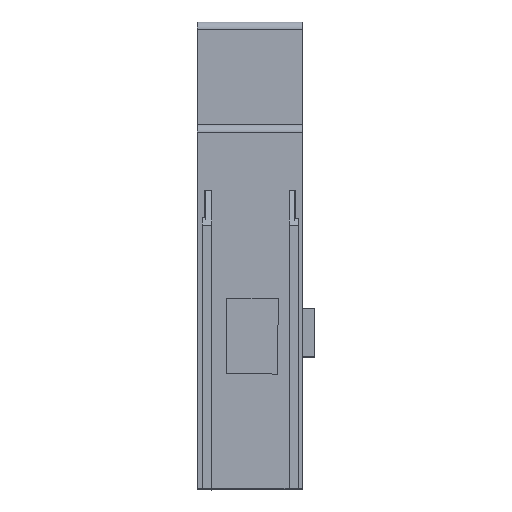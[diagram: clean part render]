
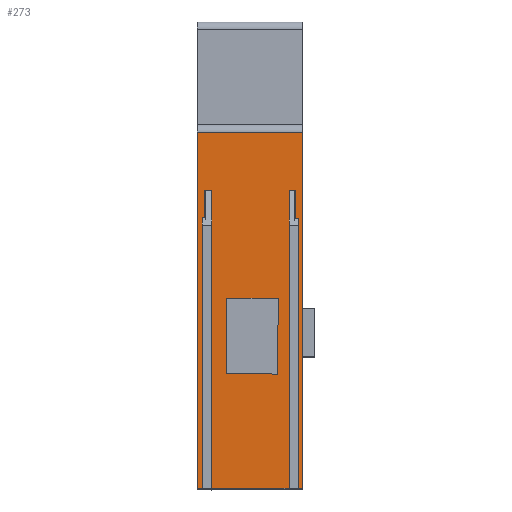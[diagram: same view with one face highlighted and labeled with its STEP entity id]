
A CAD part, front view. The second image highlights one B-rep face of the part: STEP entity #273.
In plain terms, the highlighted planar face has unit normal (0, -1, 0.003) as drawn and (0, 1, 0) by its records, which use the part's own axes.
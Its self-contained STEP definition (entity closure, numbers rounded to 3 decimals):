
#18 = VECTOR ( 'NONE', #1294, 1000. ) ;
#36 = VERTEX_POINT ( 'NONE', #3034 ) ;
#173 = VECTOR ( 'NONE', #3929, 1000. ) ;
#178 = EDGE_CURVE ( 'NONE', #1250, #380, #3559, .T. ) ;
#203 = ORIENTED_EDGE ( 'NONE', *, *, #3214, .F. ) ;
#233 = VECTOR ( 'NONE', #3371, 1000. ) ;
#267 = ORIENTED_EDGE ( 'NONE', *, *, #1054, .T. ) ;
#273 = ADVANCED_FACE ( 'NONE', ( #2558, #2505 ), #936, .F. ) ;
#320 = DIRECTION ( 'NONE',  ( 0., 0., -1. ) ) ;
#380 = VERTEX_POINT ( 'NONE', #1339 ) ;
#434 = LINE ( 'NONE', #596, #3375 ) ;
#495 = CARTESIAN_POINT ( 'NONE',  ( -8.85, 32.641, 40.5 ) ) ;
#545 = EDGE_CURVE ( 'NONE', #1443, #4043, #1128, .T. ) ;
#550 = VECTOR ( 'NONE', #320, 1000. ) ;
#555 = LINE ( 'NONE', #2863, #1116 ) ;
#595 = ORIENTED_EDGE ( 'NONE', *, *, #639, .F. ) ;
#596 = CARTESIAN_POINT ( 'NONE',  ( -8.85, 32.641, 48.491 ) ) ;
#639 = EDGE_CURVE ( 'NONE', #3196, #1943, #4102, .T. ) ;
#677 = LINE ( 'NONE', #1031, #2825 ) ;
#708 = CARTESIAN_POINT ( 'NONE',  ( 5.45, 32.641, 0. ) ) ;
#752 = VERTEX_POINT ( 'NONE', #4384 ) ;
#884 = LINE ( 'NONE', #2205, #4483 ) ;
#905 = DIRECTION ( 'NONE',  ( -0.009, 0., 1. ) ) ;
#936 = PLANE ( 'NONE',  #996 ) ;
#940 = CARTESIAN_POINT ( 'NONE',  ( -5.349, 32.641, -0.047 ) ) ;
#952 = VECTOR ( 'NONE', #3358, 1000. ) ;
#956 = CARTESIAN_POINT ( 'NONE',  ( 5.45, 32.641, 0. ) ) ;
#989 = EDGE_CURVE ( 'NONE', #2846, #1395, #2931, .T. ) ;
#996 = AXIS2_PLACEMENT_3D ( 'NONE', #4464, #1273, #3700 ) ;
#1005 = DIRECTION ( 'NONE',  ( 1., 0., 0. ) ) ;
#1031 = CARTESIAN_POINT ( 'NONE',  ( 4.459, 32.641, 63.491 ) ) ;
#1054 = EDGE_CURVE ( 'NONE', #3730, #36, #2607, .T. ) ;
#1073 = DIRECTION ( 'NONE',  ( -1., 0., 0. ) ) ;
#1114 = CARTESIAN_POINT ( 'NONE',  ( 3.459, 32.641, 40.5 ) ) ;
#1116 = VECTOR ( 'NONE', #3278, 1000. ) ;
#1128 = LINE ( 'NONE', #3582, #173 ) ;
#1210 = VECTOR ( 'NONE', #1266, 1000. ) ;
#1250 = VERTEX_POINT ( 'NONE', #2637 ) ;
#1256 = ORIENTED_EDGE ( 'NONE', *, *, #2081, .F. ) ;
#1266 = DIRECTION ( 'NONE',  ( 1., 0., 0. ) ) ;
#1273 = DIRECTION ( 'NONE',  ( 0., -1., 0. ) ) ;
#1275 = LINE ( 'NONE', #2766, #3545 ) ;
#1283 = LINE ( 'NONE', #4461, #952 ) ;
#1294 = DIRECTION ( 'NONE',  ( 0., 0., -1. ) ) ;
#1304 = EDGE_CURVE ( 'NONE', #1395, #1588, #1283, .T. ) ;
#1339 = CARTESIAN_POINT ( 'NONE',  ( -7.041, 32.641, 0. ) ) ;
#1340 = CARTESIAN_POINT ( 'NONE',  ( 1.651, 32.641, 0.014 ) ) ;
#1355 = ORIENTED_EDGE ( 'NONE', *, *, #1413, .F. ) ;
#1395 = VERTEX_POINT ( 'NONE', #708 ) ;
#1413 = EDGE_CURVE ( 'NONE', #3538, #1588, #677, .T. ) ;
#1443 = VERTEX_POINT ( 'NONE', #1744 ) ;
#1454 = LINE ( 'NONE', #940, #4024 ) ;
#1588 = VERTEX_POINT ( 'NONE', #4119 ) ;
#1678 = LINE ( 'NONE', #2432, #4273 ) ;
#1687 = CARTESIAN_POINT ( 'NONE',  ( -7.041, 32.641, 63.491 ) ) ;
#1744 = CARTESIAN_POINT ( 'NONE',  ( -7.982, 32.641, 0. ) ) ;
#1794 = CARTESIAN_POINT ( 'NONE',  ( 1.425, 32.641, 25.883 ) ) ;
#1921 = ORIENTED_EDGE ( 'NONE', *, *, #2887, .T. ) ;
#1943 = VERTEX_POINT ( 'NONE', #1794 ) ;
#1965 = DIRECTION ( 'NONE',  ( 1., 0., 0. ) ) ;
#1976 = CARTESIAN_POINT ( 'NONE',  ( 1.514, 32.641, 15.684 ) ) ;
#1989 = VECTOR ( 'NONE', #3786, 1000. ) ;
#2081 = EDGE_CURVE ( 'NONE', #2361, #3722, #1275, .T. ) ;
#2095 = EDGE_LOOP ( 'NONE', ( #1256, #3466, #595, #4116 ) ) ;
#2175 = EDGE_CURVE ( 'NONE', #752, #1443, #2759, .T. ) ;
#2205 = CARTESIAN_POINT ( 'NONE',  ( -8.85, 32.641, 0. ) ) ;
#2210 = EDGE_LOOP ( 'NONE', ( #1921, #2784, #2981, #1355, #203, #267, #4454, #4244, #3788, #3629, #2253, #4197 ) ) ;
#2253 = ORIENTED_EDGE ( 'NONE', *, *, #545, .T. ) ;
#2361 = VERTEX_POINT ( 'NONE', #1976 ) ;
#2407 = VERTEX_POINT ( 'NONE', #2730 ) ;
#2432 = CARTESIAN_POINT ( 'NONE',  ( -8.85, 32.641, 40.5 ) ) ;
#2505 = FACE_OUTER_BOUND ( 'NONE', #2210, .T. ) ;
#2558 = FACE_BOUND ( 'NONE', #2095, .T. ) ;
#2607 = LINE ( 'NONE', #4241, #3979 ) ;
#2637 = CARTESIAN_POINT ( 'NONE',  ( -7.041, 32.641, 40.5 ) ) ;
#2730 = CARTESIAN_POINT ( 'NONE',  ( -8.85, 32.641, 48.491 ) ) ;
#2759 = LINE ( 'NONE', #3066, #550 ) ;
#2766 = CARTESIAN_POINT ( 'NONE',  ( -0.273, 32.641, 15.652 ) ) ;
#2784 = ORIENTED_EDGE ( 'NONE', *, *, #989, .T. ) ;
#2792 = DIRECTION ( 'NONE',  ( 0., 0., -1. ) ) ;
#2825 = VECTOR ( 'NONE', #2792, 1000. ) ;
#2846 = VERTEX_POINT ( 'NONE', #4113 ) ;
#2863 = CARTESIAN_POINT ( 'NONE',  ( -8.85, 32.641, 0. ) ) ;
#2882 = DIRECTION ( 'NONE',  ( 1., 0., 0. ) ) ;
#2887 = EDGE_CURVE ( 'NONE', #2407, #2846, #434, .T. ) ;
#2931 = LINE ( 'NONE', #956, #18 ) ;
#2981 = ORIENTED_EDGE ( 'NONE', *, *, #1304, .T. ) ;
#3034 = CARTESIAN_POINT ( 'NONE',  ( 3.459, 32.641, 0. ) ) ;
#3066 = CARTESIAN_POINT ( 'NONE',  ( -7.982, 32.641, 63.491 ) ) ;
#3122 = CARTESIAN_POINT ( 'NONE',  ( -8.85, 32.641, 0. ) ) ;
#3164 = DIRECTION ( 'NONE',  ( 0., 0., -1. ) ) ;
#3196 = VERTEX_POINT ( 'NONE', #3663 ) ;
#3214 = EDGE_CURVE ( 'NONE', #3730, #3538, #3481, .T. ) ;
#3278 = DIRECTION ( 'NONE',  ( 0., 0., -1. ) ) ;
#3331 = CARTESIAN_POINT ( 'NONE',  ( 0., 32.641, 25.883 ) ) ;
#3358 = DIRECTION ( 'NONE',  ( -1., 0., 0. ) ) ;
#3371 = DIRECTION ( 'NONE',  ( 0., 0., -1. ) ) ;
#3375 = VECTOR ( 'NONE', #1005, 1000. ) ;
#3422 = LINE ( 'NONE', #1340, #1989 ) ;
#3463 = EDGE_CURVE ( 'NONE', #752, #1250, #1678, .T. ) ;
#3466 = ORIENTED_EDGE ( 'NONE', *, *, #4419, .F. ) ;
#3481 = LINE ( 'NONE', #495, #1210 ) ;
#3486 = EDGE_CURVE ( 'NONE', #36, #380, #884, .T. ) ;
#3538 = VERTEX_POINT ( 'NONE', #3960 ) ;
#3545 = VECTOR ( 'NONE', #4040, 1000. ) ;
#3559 = LINE ( 'NONE', #1687, #233 ) ;
#3567 = CARTESIAN_POINT ( 'NONE',  ( -5.485, 32.641, 15.561 ) ) ;
#3582 = CARTESIAN_POINT ( 'NONE',  ( -8.85, 32.641, 0. ) ) ;
#3629 = ORIENTED_EDGE ( 'NONE', *, *, #2175, .T. ) ;
#3663 = CARTESIAN_POINT ( 'NONE',  ( -5.575, 32.641, 25.883 ) ) ;
#3700 = DIRECTION ( 'NONE',  ( 0., 0., -1. ) ) ;
#3722 = VERTEX_POINT ( 'NONE', #3567 ) ;
#3730 = VERTEX_POINT ( 'NONE', #1114 ) ;
#3740 = EDGE_CURVE ( 'NONE', #2407, #4043, #555, .T. ) ;
#3786 = DIRECTION ( 'NONE',  ( 0.009, 0., -1. ) ) ;
#3788 = ORIENTED_EDGE ( 'NONE', *, *, #3463, .F. ) ;
#3929 = DIRECTION ( 'NONE',  ( -1., 0., 0. ) ) ;
#3960 = CARTESIAN_POINT ( 'NONE',  ( 4.459, 32.641, 40.5 ) ) ;
#3979 = VECTOR ( 'NONE', #3164, 1000. ) ;
#4024 = VECTOR ( 'NONE', #905, 1000. ) ;
#4038 = VECTOR ( 'NONE', #1965, 1000. ) ;
#4040 = DIRECTION ( 'NONE',  ( -1., 0., -0.017 ) ) ;
#4043 = VERTEX_POINT ( 'NONE', #3122 ) ;
#4102 = LINE ( 'NONE', #3331, #4038 ) ;
#4113 = CARTESIAN_POINT ( 'NONE',  ( 5.45, 32.641, 48.491 ) ) ;
#4116 = ORIENTED_EDGE ( 'NONE', *, *, #4123, .F. ) ;
#4119 = CARTESIAN_POINT ( 'NONE',  ( 4.459, 32.641, 0. ) ) ;
#4123 = EDGE_CURVE ( 'NONE', #3722, #3196, #1454, .T. ) ;
#4197 = ORIENTED_EDGE ( 'NONE', *, *, #3740, .F. ) ;
#4241 = CARTESIAN_POINT ( 'NONE',  ( 3.459, 32.641, 63.491 ) ) ;
#4244 = ORIENTED_EDGE ( 'NONE', *, *, #178, .F. ) ;
#4273 = VECTOR ( 'NONE', #2882, 1000. ) ;
#4384 = CARTESIAN_POINT ( 'NONE',  ( -7.982, 32.641, 40.5 ) ) ;
#4419 = EDGE_CURVE ( 'NONE', #1943, #2361, #3422, .T. ) ;
#4454 = ORIENTED_EDGE ( 'NONE', *, *, #3486, .T. ) ;
#4461 = CARTESIAN_POINT ( 'NONE',  ( -8.85, 32.641, 0. ) ) ;
#4464 = CARTESIAN_POINT ( 'NONE',  ( -8.85, 32.641, 0. ) ) ;
#4483 = VECTOR ( 'NONE', #1073, 1000. ) ;
